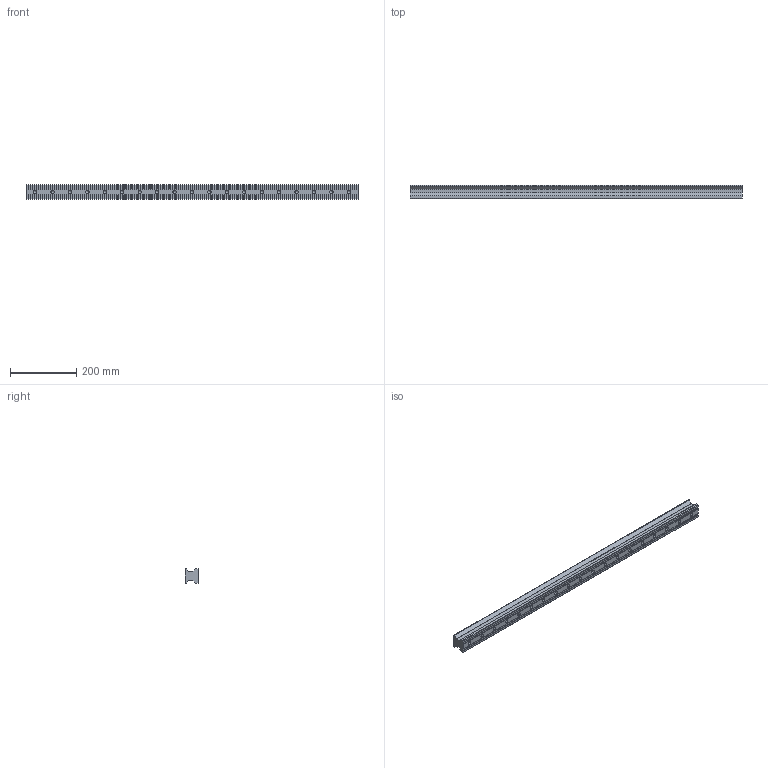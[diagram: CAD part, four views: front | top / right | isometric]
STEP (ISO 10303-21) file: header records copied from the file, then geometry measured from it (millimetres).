
FILE_DESCRIPTION(/* description */ (''),/* implementation_level */ '2;1');
FILE_NAME(/* name */ 'URR45T1000H_GW202603049643.stp',/* time_stamp */ '2026-03-30T23:07:10+08:00',/* author */ ('user'),/* organization */ (''),/* preprocessor_version */ 'ST-DEVELOPER v20.1',/* originating_system */ 'Autodesk Inventor 2026',/* authorisation */ '');
FILE_SCHEMA (('AUTOMOTIVE_DESIGN { 1 0 10303 214 3 1 1 }'));
Products named in the file (2): URR45T1000H_GW202603049643; UR45-1
Assembly tree (1 placements, depth 2):
  URR45T1000H_GW202603049643
    UR45-1
Bounding box: 1000 x 40 x 45 mm (x, y, z)
Volume: 1380151.9 mm3; surface area: 201311.7 mm2
Topology: 1 solids, 1 shells, 195 faces, 545 edges, 357 vertices
Faces by surface type: plane 92, bspline 57, cylinder 27, cone 19
Full cylindrical faces by diameter (mm): 10.106 x19
Entity records: 7392 total; most frequent: CARTESIAN_POINT 2722, ORIENTED_EDGE 1052, DIRECTION 752, EDGE_CURVE 526, LINE 358, VECTOR 358, VERTEX_POINT 357, EDGE_LOOP 219
